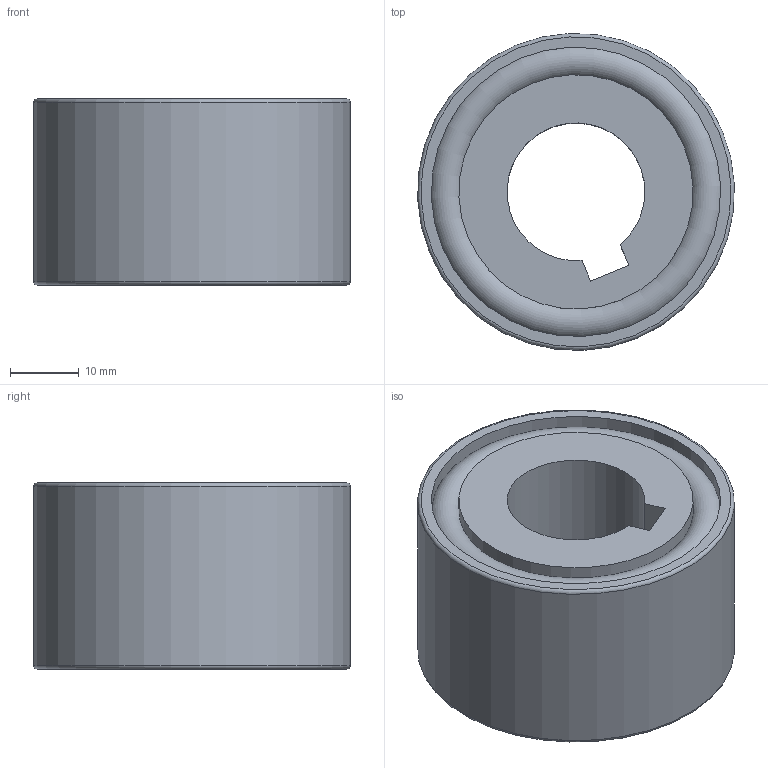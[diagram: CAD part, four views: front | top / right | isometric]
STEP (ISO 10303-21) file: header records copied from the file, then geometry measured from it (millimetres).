
FILE_DESCRIPTION(/* description */ (''),/* implementation_level */ '2;1');
FILE_NAME(/* name */ '300712 FN 442 M.stp',/* time_stamp */ '2016-11-24T15:58:04+01:00',/* author */ (''),/* organization */ (''),/* preprocessor_version */ 'ST-DEVELOPER v15',/* originating_system */ 'SIEMENS PLM Software NX 8.5',/* authorisation */ '');
FILE_SCHEMA (('CONFIG_CONTROL_DESIGN'));
Length unit declared in the file: millimetre
Products named in the file (3): ATE0000080_01; ATE0000131_01; ATE0000132_01
Assembly tree (2 placements, depth 2):
  ATE0000132_01
    ATE0000131_01
    ATE0000080_01
Bounding box: 45.96 x 45.96 x 27 mm (x, y, z)
Volume: 29916.8 mm3; surface area: 20673.9 mm2
Topology: 3 solids, 3 shells, 73 faces, 162 edges, 107 vertices
Faces by surface type: plane 47, cylinder 22, torus 4
Full cylindrical faces by diameter (mm): 34 x3, 38 x1, 39 x1, 40 x1, 41 x2, 42 x4, 46 x1
Entity records: 2192 total; most frequent: DIRECTION 350, CARTESIAN_POINT 312, ORIENTED_EDGE 272, AXIS2_PLACEMENT_3D 138, EDGE_CURVE 136, EDGE_LOOP 110, VERTEX_POINT 100, LINE 74
